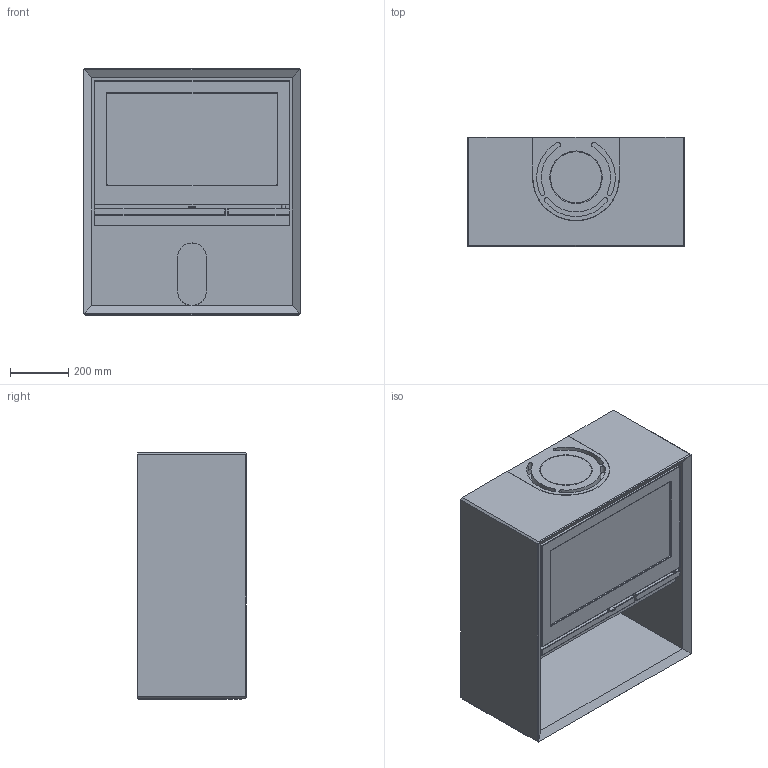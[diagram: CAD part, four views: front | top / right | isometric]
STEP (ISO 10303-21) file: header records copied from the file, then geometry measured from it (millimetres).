
FILE_DESCRIPTION(/* description */ ('Unknown','CAx-IF Rec.Pracs.---Representation and Presentation of Product Manufacturing Information (PMI)---4.0---2014-10-13','CAx-IF Rec.Pracs.---3D Tessellated Geometry---0.4---2014-09-14','2;1'),/* implementation_level */ '2;1');
FILE_NAME(/* name */ 'C310 Assembly',/* time_stamp */ '2016-12-29T09:15:25+01:00',/* author */ ('Unknown'),/* organization */ ('Unknown'),/* preprocessor_version */ 'ST-DEVELOPER v16.7',/* originating_system */ 'DEX',/* authorisation */ $);
FILE_SCHEMA (('AP242_MANAGED_MODEL_BASED_3D_ENGINEERING_MIM_LF { 1 0 10303 442 20130219 1 4 }'));
Length unit declared in the file: millimetre
Products named in the file (9): DSN1015736; DSN1015708; DSN1015714; DSN1015718; DSN1015711; DSN1015721; DSN1015723; DSN1015741; DSN1015743
Assembly tree (8 placements, depth 2):
  DSN1015736
    DSN1015708
    DSN1015714
    DSN1015718
    DSN1015711
    DSN1015721
    DSN1015723
    DSN1015741
    DSN1015743
Bounding box: 750 x 375 x 849 mm (x, y, z)
Volume: 106926746.7 mm3; surface area: 8538084.3 mm2
Topology: 11 solids, 11 shells, 795 faces, 1989 edges, 1281 vertices
Faces by surface type: plane 510, bspline 142, cylinder 114, sphere 17, torus 12
Full cylindrical faces by diameter (mm): 14 x1, 169 x1, 171.8 x1, 172 x1, 176 x1, 181 x1
Entity records: 29891 total; most frequent: CARTESIAN_POINT 12133, ORIENTED_EDGE 3888, DIRECTION 3001, EDGE_CURVE 1944, VERTEX_POINT 1278, LINE 1021, VECTOR 1021, AXIS2_PLACEMENT_3D 990
